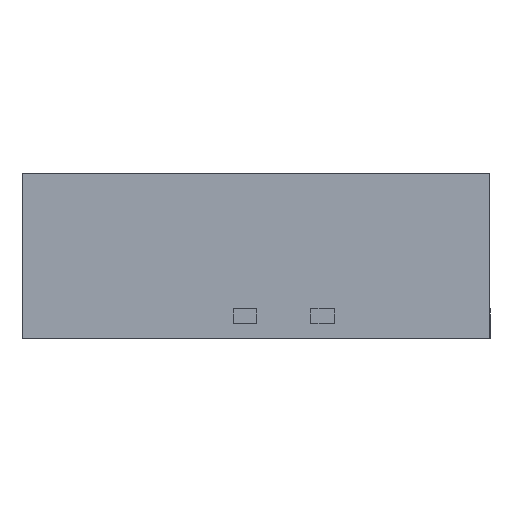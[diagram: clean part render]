
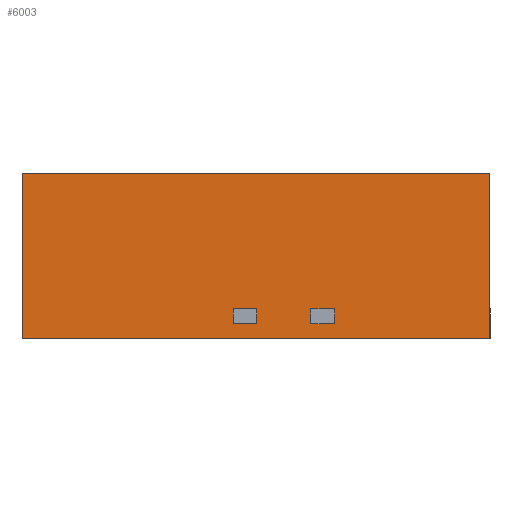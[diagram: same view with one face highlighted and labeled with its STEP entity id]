
A CAD part, left-side view. The second image highlights one B-rep face of the part: STEP entity #6003.
In plain terms, the highlighted planar face has unit normal (-1, 0, 0).
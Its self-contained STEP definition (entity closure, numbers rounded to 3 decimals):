
#5679=CARTESIAN_POINT('',(0.0,0.0,0.0));
#5680=VERTEX_POINT('',#5679);
#5687=CARTESIAN_POINT('',(0.,2.35,0.0));
#5688=VERTEX_POINT('',#5687);
#5689=CARTESIAN_POINT('',(0.,2.35,0.0));
#5690=DIRECTION('',(0.0,-1.0,0.0));
#5691=VECTOR('',#5690,2.35);
#5692=LINE('',#5689,#5691);
#5693=EDGE_CURVE('',#5688,#5680,#5692,.T.);
#5808=CARTESIAN_POINT('',(0.,2.35,0.83));
#5809=VERTEX_POINT('',#5808);
#5810=CARTESIAN_POINT('',(0.,2.35,0.0));
#5811=DIRECTION('',(0.0,0.0,1.0));
#5812=VECTOR('',#5811,0.83);
#5813=LINE('',#5810,#5812);
#5814=EDGE_CURVE('',#5688,#5809,#5813,.T.);
#5863=CARTESIAN_POINT('',(0.0,0.0,0.83));
#5864=VERTEX_POINT('',#5863);
#5865=CARTESIAN_POINT('',(0.0,0.0,0.83));
#5866=DIRECTION('',(0.0,1.0,0.0));
#5867=VECTOR('',#5866,2.35);
#5868=LINE('',#5865,#5867);
#5869=EDGE_CURVE('',#5864,#5809,#5868,.T.);
#5919=CARTESIAN_POINT('',(0.0,0.0,0.0));
#5920=DIRECTION('',(-1.0,0.0,0.0));
#5921=DIRECTION('',(0.0,0.0,1.0));
#5922=AXIS2_PLACEMENT_3D('',#5919,#5920,#5921);
#5923=PLANE('',#5922);
#5924=ORIENTED_EDGE('',*,*,#5869,.T.);
#5925=ORIENTED_EDGE('',*,*,#5814,.F.);
#5926=ORIENTED_EDGE('',*,*,#5693,.T.);
#5927=CARTESIAN_POINT('',(0.0,0.0,0.0));
#5928=DIRECTION('',(0.0,0.0,1.0));
#5929=VECTOR('',#5928,0.83);
#5930=LINE('',#5927,#5929);
#5931=EDGE_CURVE('',#5680,#5864,#5930,.T.);
#5932=ORIENTED_EDGE('',*,*,#5931,.T.);
#5933=EDGE_LOOP('',(#5924,#5925,#5926,#5932));
#5934=FACE_OUTER_BOUND('',#5933,.T.);
#5935=CARTESIAN_POINT('',(0.0,0.9,0.075));
#5936=VERTEX_POINT('',#5935);
#5937=CARTESIAN_POINT('',(0.0,0.78,0.075));
#5938=VERTEX_POINT('',#5937);
#5939=CARTESIAN_POINT('',(0.0,0.9,0.075));
#5940=DIRECTION('',(0.0,-1.0,0.0));
#5941=VECTOR('',#5940,0.12);
#5942=LINE('',#5939,#5941);
#5943=EDGE_CURVE('',#5936,#5938,#5942,.T.);
#5944=ORIENTED_EDGE('',*,*,#5943,.F.);
#5945=CARTESIAN_POINT('',(0.0,0.9,0.15));
#5946=VERTEX_POINT('',#5945);
#5947=CARTESIAN_POINT('',(0.0,0.9,0.075));
#5948=DIRECTION('',(0.0,0.0,1.0));
#5949=VECTOR('',#5948,0.075);
#5950=LINE('',#5947,#5949);
#5951=EDGE_CURVE('',#5936,#5946,#5950,.T.);
#5952=ORIENTED_EDGE('',*,*,#5951,.T.);
#5953=CARTESIAN_POINT('',(0.0,0.78,0.15));
#5954=VERTEX_POINT('',#5953);
#5955=CARTESIAN_POINT('',(0.0,0.78,0.15));
#5956=DIRECTION('',(0.0,1.0,0.0));
#5957=VECTOR('',#5956,0.12);
#5958=LINE('',#5955,#5957);
#5959=EDGE_CURVE('',#5954,#5946,#5958,.T.);
#5960=ORIENTED_EDGE('',*,*,#5959,.F.);
#5961=CARTESIAN_POINT('',(0.0,0.78,0.075));
#5962=DIRECTION('',(0.0,0.0,1.0));
#5963=VECTOR('',#5962,0.075);
#5964=LINE('',#5961,#5963);
#5965=EDGE_CURVE('',#5938,#5954,#5964,.T.);
#5966=ORIENTED_EDGE('',*,*,#5965,.F.);
#5967=EDGE_LOOP('',(#5944,#5952,#5960,#5966));
#5968=FACE_BOUND('',#5967,.T.);
#5969=CARTESIAN_POINT('',(0.0,1.29,0.075));
#5970=VERTEX_POINT('',#5969);
#5971=CARTESIAN_POINT('',(0.0,1.17,0.075));
#5972=VERTEX_POINT('',#5971);
#5973=CARTESIAN_POINT('',(0.0,1.29,0.075));
#5974=DIRECTION('',(0.0,-1.0,0.0));
#5975=VECTOR('',#5974,0.12);
#5976=LINE('',#5973,#5975);
#5977=EDGE_CURVE('',#5970,#5972,#5976,.T.);
#5978=ORIENTED_EDGE('',*,*,#5977,.F.);
#5979=CARTESIAN_POINT('',(0.0,1.29,0.15));
#5980=VERTEX_POINT('',#5979);
#5981=CARTESIAN_POINT('',(0.0,1.29,0.075));
#5982=DIRECTION('',(0.0,0.0,1.0));
#5983=VECTOR('',#5982,0.075);
#5984=LINE('',#5981,#5983);
#5985=EDGE_CURVE('',#5970,#5980,#5984,.T.);
#5986=ORIENTED_EDGE('',*,*,#5985,.T.);
#5987=CARTESIAN_POINT('',(0.0,1.17,0.15));
#5988=VERTEX_POINT('',#5987);
#5989=CARTESIAN_POINT('',(0.0,1.17,0.15));
#5990=DIRECTION('',(0.0,1.0,0.0));
#5991=VECTOR('',#5990,0.12);
#5992=LINE('',#5989,#5991);
#5993=EDGE_CURVE('',#5988,#5980,#5992,.T.);
#5994=ORIENTED_EDGE('',*,*,#5993,.F.);
#5995=CARTESIAN_POINT('',(0.0,1.17,0.075));
#5996=DIRECTION('',(0.0,0.0,1.0));
#5997=VECTOR('',#5996,0.075);
#5998=LINE('',#5995,#5997);
#5999=EDGE_CURVE('',#5972,#5988,#5998,.T.);
#6000=ORIENTED_EDGE('',*,*,#5999,.F.);
#6001=EDGE_LOOP('',(#5978,#5986,#5994,#6000));
#6002=FACE_BOUND('',#6001,.T.);
#6003=ADVANCED_FACE('',(#5934,#5968,#6002),#5923,.T.);
